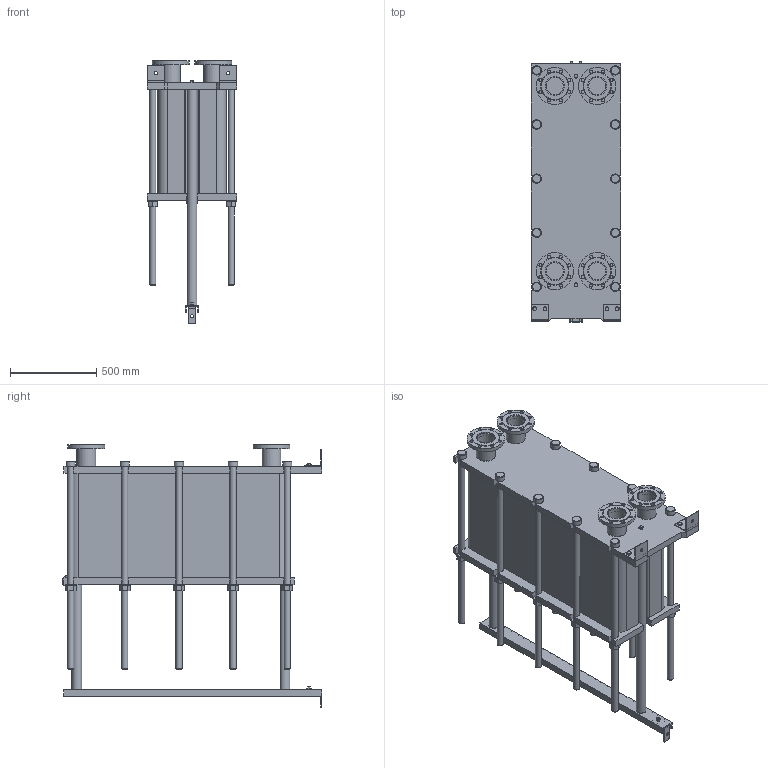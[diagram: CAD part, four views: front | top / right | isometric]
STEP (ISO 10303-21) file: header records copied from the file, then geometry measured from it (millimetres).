
FILE_DESCRIPTION(/* description */ (''),/* implementation_level */ '2;1');
FILE_NAME(/* name */ 'C:\Users\zhuro\Desktop\ENCO\TO\ЭН-04\ЭН-0,5-04-176-1.stp',/* time_stamp */ '2022-06-06T11:00:32+03:00',/* author */ ('zhuro'),/* organization */ (''),/* preprocessor_version */ 'ST-DEVELOPER v18.1',/* originating_system */ 'Autodesk Inventor 2022',/* authorisation */ '');
FILE_SCHEMA (('AUTOMOTIVE_DESIGN { 1 0 10303 214 3 1 1 }'));
Length unit declared in the file: millimetre
Products named in the file (1): ЭН-0,5-04-176-1
Bounding box: 520 x 1510 x 1533 mm (x, y, z)
Volume: 378748934.5 mm3; surface area: 10026509.1 mm2
Topology: 45 solids, 45 shells, 668 faces, 1611 edges, 1048 vertices
Faces by surface type: plane 457, cylinder 166, cone 39, torus 6
Full cylindrical faces by diameter (mm): 8 x4, 10 x2, 16 x8, 18 x35, 36 x25, 40 x2, 42 x1, 45 x4, 54 x10, 57 x2, 60 x10, 68 x2, 100 x4, 110 x8, 215 x4
Entity records: 23607 total; most frequent: CARTESIAN_POINT 7348, DIRECTION 3371, ORIENTED_EDGE 3142, EDGE_CURVE 1571, AXIS2_PLACEMENT_3D 1199, VERTEX_POINT 1044, LINE 973, VECTOR 973
